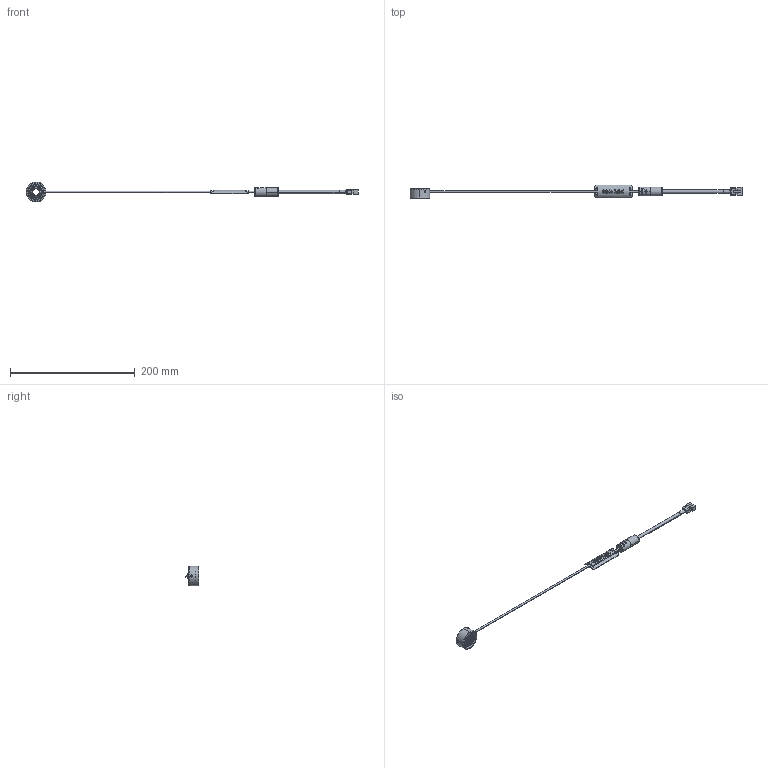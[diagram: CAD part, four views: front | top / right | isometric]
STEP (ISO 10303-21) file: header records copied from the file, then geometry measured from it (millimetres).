
FILE_DESCRIPTION (( 'STEP AP203' ), '1' );
FILE_NAME ('MDRL-C#10_A09301A0100201A-003.STEP', '2013-12-16T06:38:25', ( 'SCHOTT' ), ( 'SCHOTT' ), 'SwSTEP 2.0', 'SolidWorks 2011', '' );
FILE_SCHEMA (( 'CONFIG_CONTROL_DESIGN' ));
Length unit declared in the file: millimetre
Products named in the file (1): MDRL-C#10_A09301A0100201A-003
Bounding box: 532 x 21.5 x 32 mm (x, y, z)
Volume: 22149.1 mm3; surface area: 17296 mm2
Topology: 2 solids, 8 shells, 906 faces, 2748 edges, 1904 vertices
Faces by surface type: plane 507, cylinder 292, sphere 64, cone 32, bspline 8, torus 3
Entity records: 37688 total; most frequent: CARTESIAN_POINT 13578, ORIENTED_EDGE 5352, DIRECTION 4466, EDGE_CURVE 2676, VERTEX_POINT 1904, AXIS2_PLACEMENT_3D 1583, LINE 1300, VECTOR 1300
